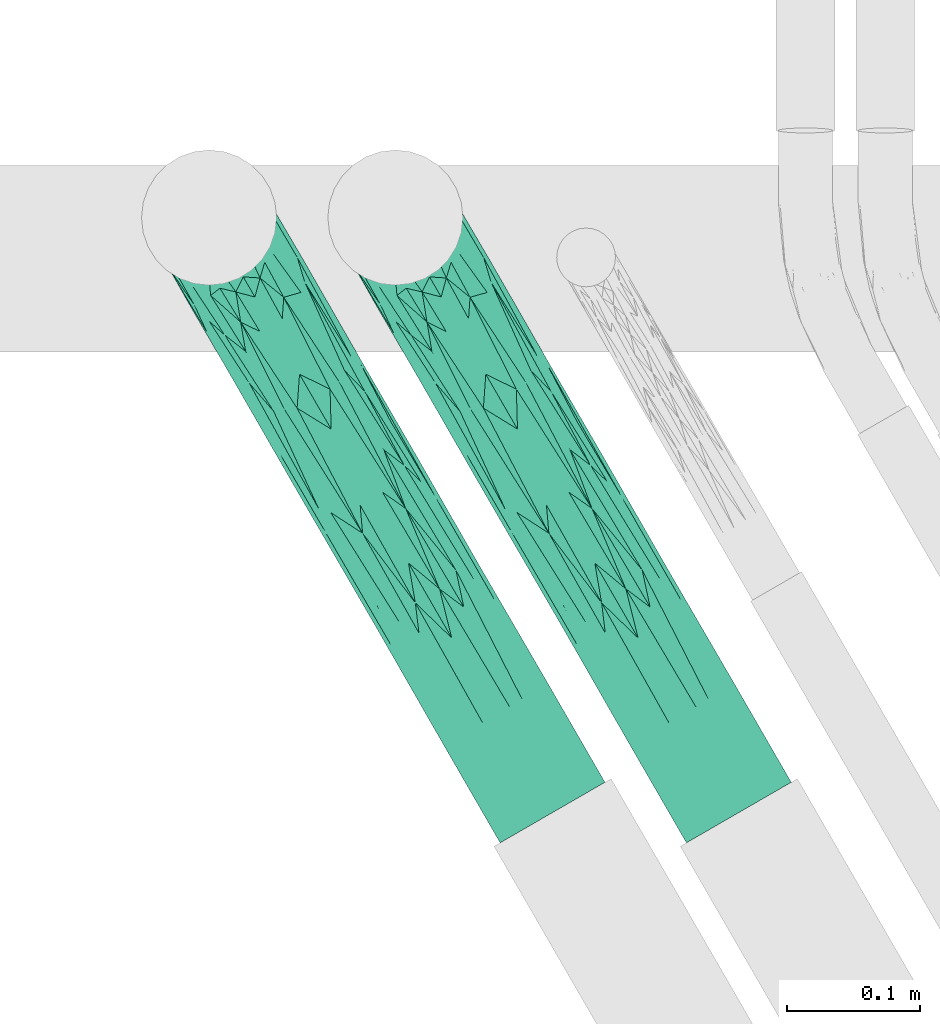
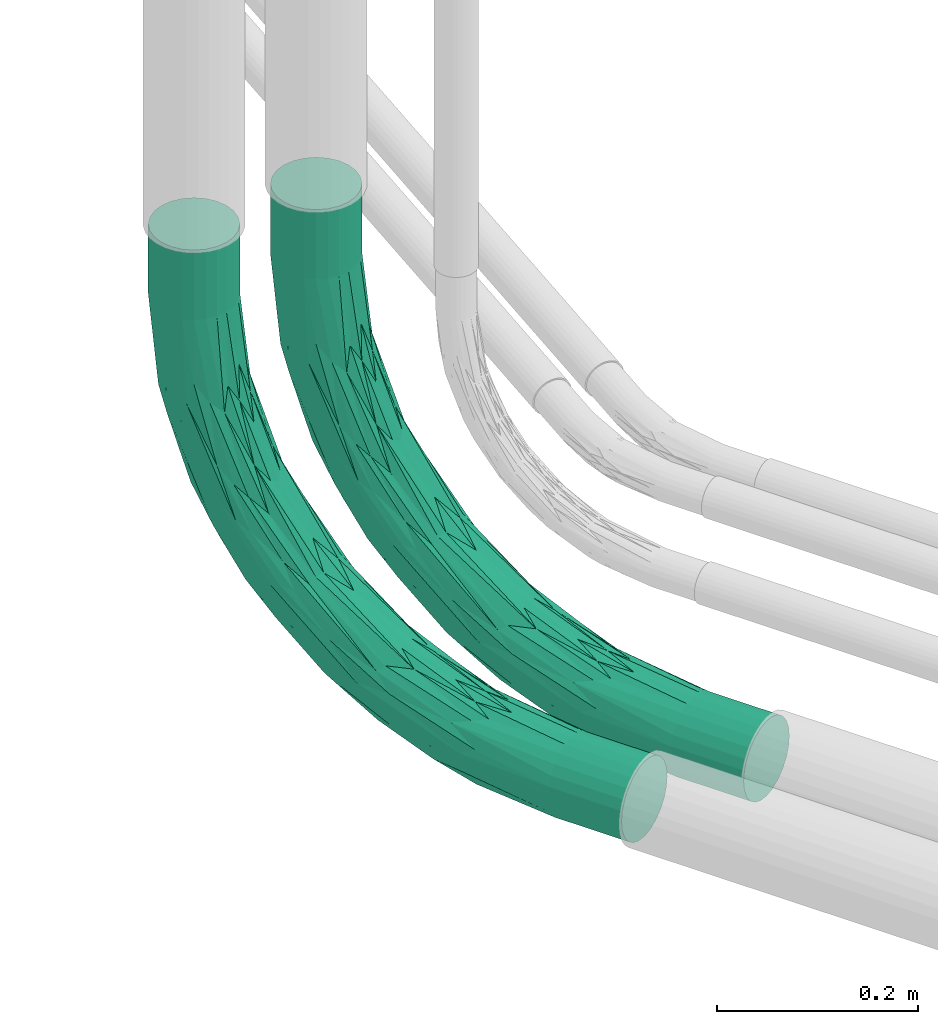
# One storey, part 15 of 18: 2 cable carrier fittings.
"""IFC4 building model written with IfcOpenShell, lengths in centimetres."""

from ifc_helpers import new_model, entity, si_unit, converted_unit, derived_unit, direction, frame, origin, place, context, subcontext, project, spatial, polygons, source, transform, mapped, material, type_object, type_shapes, element, save


model = new_model("IFC4")

# Units and contexts
model_context = context("Model", 3, precision=0.001, world=origin(), true_north=direction((6.123233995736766e-17, 1.0)))
body_context = subcontext(model_context, "Body", "Model", "MODEL_VIEW")
ifc_project = project(units=[si_unit("LENGTHUNIT", "METRE", prefix="CENTI"), si_unit("AREAUNIT", "SQUARE_METRE"), converted_unit("PLANEANGLEUNIT", "DEGREE", entity("IfcPlaneAngleMeasure", 0.017453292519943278), si_unit("PLANEANGLEUNIT", "RADIAN"), dimensions=[0, 0, 0, 0, 0, 0, 0]), si_unit("VOLUMEUNIT", "CUBIC_METRE"), derived_unit("THERMALTRANSMITTANCEUNIT", [(si_unit("MASSUNIT", "GRAM", prefix="KILO"), 1), (si_unit("THERMODYNAMICTEMPERATUREUNIT", "KELVIN"), -1), (si_unit("TIMEUNIT", "SECOND"), -3)])], contexts=[model_context])

# Site, building, storey
site_placement = place(None, frame((-0.003347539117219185, 0.0, 0.0)))
site = spatial("IfcSite", under=ifc_project, at=site_placement, Name="Default", CompositionType="ELEMENT")
building_placement = place(site_placement, origin())
building = spatial("IfcBuilding", under=site, at=building_placement, CompositionType="ELEMENT")
storey_placement = place(building_placement, frame((0.0, 0.0, -30.0)))
storey = spatial("IfcBuildingStorey", under=building, at=storey_placement, Name="Fondation B.O.", CompositionType="ELEMENT", Elevation=-30.0)

# Cable carrier fittings
ifc_material = material(Name="<Unnamed>")
cable_carrier_fitting_type = type_object("IfcCableCarrierFittingType", Name="Courbure de conduit en plastique rigide - Sans raccords:Raccord TPC HT", PredefinedType="NOTDEFINED", material=ifc_material)
shared_shape = source(origin(), body_context, "Body", "Tessellation", [
    polygons([(-51.62099999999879, -4.550000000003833, -2.0177218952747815e-13), (-51.620999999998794, -4.394962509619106, 1.1776266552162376), (-51.620999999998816, -3.940415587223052, 2.2749999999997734), (-51.62099999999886, -3.2173358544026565, 3.2173358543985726), (-51.62099999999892, -2.2750000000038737, 3.9404155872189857), (-51.62099999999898, -1.1776266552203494, 4.394962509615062), (-51.62099999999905, -3.882659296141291e-12, 4.549999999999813), (-51.620999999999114, 1.177626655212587, 4.3949625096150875), (-51.62099999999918, 2.2749999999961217, 3.9404155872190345), (-51.620999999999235, 3.2173358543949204, 3.217335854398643), (-51.62099999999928, 3.9404155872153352, 2.2749999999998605), (-51.620999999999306, 4.394962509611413, 1.1776266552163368), (-51.62099999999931, 4.549999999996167, -1.5766782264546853e-13), (-51.620999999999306, 4.394962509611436, -1.177626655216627), (-51.62099999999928, 3.940415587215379, -2.2750000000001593), (-51.620999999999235, 3.217335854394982, -3.217335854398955), (-51.62099999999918, 2.274999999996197, -3.9404155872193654), (-51.620999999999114, 1.177626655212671, -4.394962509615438), (-51.62099999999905, -3.799606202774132e-12, -4.550000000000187), (-51.62099999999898, -1.177626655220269, -4.394962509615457), (-51.62099999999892, -2.2750000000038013, -3.9404155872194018), (-51.62099999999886, -3.2173358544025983, -3.217335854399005), (-51.620999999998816, -3.94041558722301, -2.275000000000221), (-51.620999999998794, -4.394962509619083, -1.1776266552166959), (-43.18000000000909, -4.550000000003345, -2.0177218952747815e-13), (-43.18000000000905, -4.394962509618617, 1.1776266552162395), (-43.18000000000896, -3.9404155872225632, 2.2749999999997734), (-43.1800000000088, -3.2173358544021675, 3.2173358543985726), (-43.180000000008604, -2.2750000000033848, 3.9404155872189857), (-43.18000000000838, -1.1776266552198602, 4.394962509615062), (-43.18000000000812, -3.393677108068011e-12, 4.549999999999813), (-43.18000000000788, 1.1776266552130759, 4.3949625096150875), (-43.18000000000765, 2.274999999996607, 3.940415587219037), (-43.180000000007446, 3.2173358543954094, 3.217335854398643), (-43.1800000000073, 3.940415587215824, 2.2749999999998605), (-43.180000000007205, 4.3949625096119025, 1.1776266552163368), (-43.18000000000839, 4.549999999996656, -1.2937933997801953e-13), (-43.180000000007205, 4.394962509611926, -1.177626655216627), (-43.1800000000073, 3.940415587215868, -2.2750000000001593), (-43.180000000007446, 3.217335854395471, -3.217335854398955), (-43.18000000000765, 2.274999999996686, -3.9404155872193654), (-43.18000000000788, 1.1776266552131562, -4.394962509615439), (-43.18000000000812, -3.3065828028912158e-12, -4.550000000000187), (-43.18000000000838, -1.177626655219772, -4.394962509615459), (-43.180000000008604, -2.2750000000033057, -3.9404155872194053), (-43.1800000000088, -3.2173358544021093, -3.217335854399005), (-43.18000000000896, -3.9404155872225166, -2.275000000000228), (-43.18000000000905, -4.394962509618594, -1.1776266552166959), (-4.549999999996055, 43.17999999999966, -1.5766782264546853e-13), (-5.136876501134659, 36.47197089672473, -1.5766782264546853e-13), (-6.879674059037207, 29.96776186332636, -1.5766782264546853e-13), (-9.725438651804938, 23.86499999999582, -1.5766782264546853e-13), (-13.58770316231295, 18.349114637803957, -1.5766782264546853e-13), (-18.349114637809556, 13.58770316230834, -1.5766782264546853e-13), (-23.865000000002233, 9.725438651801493, -1.5766782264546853e-13), (-29.967761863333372, 6.879674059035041, -1.5766782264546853e-13), (-36.47197089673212, 5.1368765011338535, -1.5766782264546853e-13), (-35.71338298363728, -3.9623644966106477, -2.0177218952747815e-13), (-28.430618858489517, -2.2139275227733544, -2.0177218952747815e-13), (-21.511033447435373, 0.6522586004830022, -2.0177218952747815e-13), (-15.125009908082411, 4.565618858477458, -2.0177218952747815e-13), (-9.429793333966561, 9.429793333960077, -2.0177218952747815e-13), (-4.56561885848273, 15.125009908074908, -2.0177218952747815e-13), (-0.652258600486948, 21.51103344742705, -2.0177218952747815e-13), (2.2139275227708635, 28.43061885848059, -2.0177218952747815e-13), (3.9623644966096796, 35.713382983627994, -2.0177218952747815e-13), (4.550000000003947, 43.17999999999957, -2.0177218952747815e-13), (4.394962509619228, 43.179999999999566, 1.1776266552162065), (3.940415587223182, 43.17999999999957, 2.274999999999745), (3.217335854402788, 43.17999999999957, 3.217335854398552), (2.275000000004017, 43.17999999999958, 3.9404155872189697), (1.177626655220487, 43.17999999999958, 4.394962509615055), (4.020144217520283e-12, 43.17999999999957, 4.549999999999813), (-1.1776266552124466, 43.17999999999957, 4.3949625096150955), (-2.2749999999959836, 43.179999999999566, 3.940415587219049), (-3.2173358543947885, 43.179999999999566, 3.217335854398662), (-3.940415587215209, 43.17999999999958, 2.274999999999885), (-4.394962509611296, 43.17999999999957, 1.1776266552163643), (-15.02036436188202, 15.020364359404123, 3.072134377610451), (-13.077938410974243, 7.671630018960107, 3.056157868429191), (-26.30648554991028, 7.98520029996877, 1.8668578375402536), (-7.985200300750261, 26.306485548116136, 1.8668578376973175), (-14.581721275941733, 11.392017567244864, 4.530486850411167), (-2.7005822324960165, 18.736862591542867, 1.9585534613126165), (-25.502366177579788, -0.7447833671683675, 1.8236442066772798), (-4.072509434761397, 20.84036665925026, 4.153185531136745), (-15.701628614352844, 15.70162861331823, 1.4291838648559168), (-12.41459078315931, 7.036212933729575, 1.53137504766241), (-23.3273464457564, 2.768813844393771, 4.159433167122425), (-5.906865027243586, 24.847098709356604, 4.243277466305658), (-26.636265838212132, 5.0902296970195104, 4.239274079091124), (-32.813833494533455, 5.8392050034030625, 1.0506524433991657), (-5.839205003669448, 32.81383349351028, 1.0506524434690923), (0.8967112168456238, 25.231808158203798, 1.1164378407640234), (0.7514990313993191, 29.50971928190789, 3.5633854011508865), (-1.4506645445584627, 29.713148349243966, 4.500618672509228), (-25.157632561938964, -0.9215767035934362, 0.8908191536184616), (-30.585415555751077, -1.0669243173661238, 3.5671710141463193), (-30.771130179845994, 1.1302090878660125, 4.50150989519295), (-4.446205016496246, 31.475107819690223, 3.6502381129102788), (-32.208491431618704, 5.12089169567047, 2.819605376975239), (2.1655382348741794, 30.348450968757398, 2.265177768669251), (0.5759349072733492, 32.7839426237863, 4.181398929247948), (-1.7748042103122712, 32.98047666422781, 4.5181930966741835), (-6.292048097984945, 21.142857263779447, 4.5451166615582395), (-33.632130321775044, -3.371313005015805, 1.3651364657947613), (-10.361088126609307, 13.750845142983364, 4.459849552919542), (-32.945731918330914, -2.5114050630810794, 2.725261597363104), (-33.21167237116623, 1.7198873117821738, 4.518036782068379), (-4.782104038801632, 33.47921154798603, 2.8137434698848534), (-12.11545920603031, 10.098426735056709, 3.9824601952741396), (-33.55583600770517, 3.88755838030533, 3.642944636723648), (-23.4420461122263, 8.216172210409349, 3.3947214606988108), (-14.49587891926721, 13.772556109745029, 4.036461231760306), (-8.31201253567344, 23.759214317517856, 3.1655470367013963), (-22.634103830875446, 1.3309122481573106, 2.9773809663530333), (-23.217617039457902, 4.999638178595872, 4.54898853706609), (-33.777278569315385, -0.7948692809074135, 4.183587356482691), (-5.231461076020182, 16.921536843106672, 3.449059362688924), (-2.598204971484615, 34.57606622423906, 4.222034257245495), (-18.816842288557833, 4.280345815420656, 3.647993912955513), (-24.378272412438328, 9.314341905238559, 0.9711047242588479), (-34.91207018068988, 4.997982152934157, 1.945551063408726), (-9.314341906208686, 24.37827241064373, 0.9711047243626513), (-4.997982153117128, 34.912070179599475, 1.9455510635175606), (-3.7255548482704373, 16.522075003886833, 1.0114493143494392), (-16.695691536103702, 4.252141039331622, 2.3388230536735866), (-9.106611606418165, 10.686908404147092, 2.338823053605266), (-21.987659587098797, 4.5203370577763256, 4.458633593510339), (-35.635537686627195, 2.3936760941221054, 4.219770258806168), (-7.805873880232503, 23.08577914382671, 3.8036156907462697), (-1.1709756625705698, 22.70468628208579, 2.8419920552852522), (-21.669604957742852, 10.075263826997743, 2.6472320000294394), (-15.58322736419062, 15.262627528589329, 2.301635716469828), (-20.807317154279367, 7.395248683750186, 4.443848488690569), (-14.848857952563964, 12.32189300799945, 4.363669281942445), (-10.074938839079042, 18.017757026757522, 4.260246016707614), (-19.934998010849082, 8.950763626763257, 4.177076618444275), (-24.79087940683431, 6.749951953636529, 3.882911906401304), (3.5596861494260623, 34.011112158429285, 0.9462245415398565), (2.5243445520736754, 34.09466590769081, 3.002600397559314), (-4.872341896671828, 21.316158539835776, 4.454386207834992), (-17.147761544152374, 12.28493050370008, 3.6021751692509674), (-4.3949625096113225, 43.17999999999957, -1.1776266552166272), (-3.9404155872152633, 43.17999999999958, -2.2750000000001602), (-3.21733585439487, 43.179999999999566, -3.217335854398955), (-2.2749999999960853, 43.179999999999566, -3.9404155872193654), (-1.177626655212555, 43.17999999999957, -4.394962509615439), (3.911857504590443e-12, 43.17999999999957, -4.550000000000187), (1.1776266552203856, 43.17999999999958, -4.394962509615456), (2.275000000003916, 43.17999999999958, -3.940415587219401), (3.2173358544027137, 43.17999999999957, -3.217335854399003), (3.9404155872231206, 43.17999999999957, -2.275000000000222), (4.3949625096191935, 43.17999999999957, -1.1776266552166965), (-15.02036470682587, 15.020364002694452, -3.072134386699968), (-13.077938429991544, 7.671629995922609, -3.056157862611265), (-26.30648564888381, 7.98520023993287, -1.8668578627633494), (-7.9852001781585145, 26.30648577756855, -1.8668578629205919), (-11.392017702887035, 14.581721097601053, -4.5304868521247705), (-2.700582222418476, 18.73686260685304, -1.958553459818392), (-25.502366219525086, -0.7447833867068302, -1.823644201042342), (-4.0725094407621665, 20.8403666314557, -4.153185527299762), (-15.701628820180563, 15.701628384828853, -1.4291839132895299), (-12.414590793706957, 7.036212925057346, -1.5313750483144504), (-23.327346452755, 2.7688138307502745, -4.159433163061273), (-24.847098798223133, 5.906864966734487, -4.243277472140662), (-5.090229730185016, 26.636265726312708, -4.239274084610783), (-32.813833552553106, 5.839204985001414, -1.050652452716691), (-5.839204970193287, 32.81383361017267, -1.0506524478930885), (0.8967112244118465, 25.231808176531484, -1.1164378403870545), (0.751499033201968, 29.509719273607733, -3.5633853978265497), (-1.4506645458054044, 29.713148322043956, -4.500618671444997), (-25.157632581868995, -0.9215767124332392, -0.8908191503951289), (-30.58541556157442, -1.0669243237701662, -3.5671710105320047), (-30.771130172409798, 1.13020908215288, -4.501509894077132), (-31.47510786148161, 4.446204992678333, -3.6502381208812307), (-5.120891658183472, 32.2084915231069, -2.819605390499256), (2.1655382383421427, 30.348450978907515, -2.2651777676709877), (0.5759349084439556, 32.783942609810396, -4.181398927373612), (-1.7748042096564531, 32.98047663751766, -4.51819309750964), (-33.63213033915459, -3.371313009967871, -1.3651364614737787), (-32.94573191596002, -2.5114050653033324, -2.7252615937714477), (-33.21167235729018, 1.7198873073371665, -4.518036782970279), (-21.223091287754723, 6.155412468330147, -4.548015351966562), (-12.950291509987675, 10.818543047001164, -4.413957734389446), (-33.479211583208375, 4.782104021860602, -2.81374347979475), (-3.8875583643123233, 33.5558360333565, -3.64294464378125), (-8.2161723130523, 23.442045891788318, -3.394721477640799), (-13.772556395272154, 14.495878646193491, -4.036461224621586), (-23.759214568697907, 8.312012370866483, -3.1655470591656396), (-22.634103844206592, 1.3309122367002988, -2.9773809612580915), (-33.77727857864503, -0.7948692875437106, -4.183587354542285), (-18.82107841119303, 4.280834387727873, -3.6499770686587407), (-9.61754694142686, 12.190658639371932, -3.800815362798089), (-4.324134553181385, 17.576515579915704, -3.075733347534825), (-34.57606628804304, 2.5982049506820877, -4.222034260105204), (-5.114986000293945, 23.1231667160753, -4.547387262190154), (-5.329800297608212, 20.654786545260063, -4.466887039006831), (-24.378272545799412, 9.314341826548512, -0.9711047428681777), (-34.91207023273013, 4.9979821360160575, -1.9455510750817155), (-9.31434176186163, 24.378272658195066, -0.9711047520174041), (-4.9979821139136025, 34.91207036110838, -1.9455510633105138), (-3.725554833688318, 16.52207502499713, -1.0114493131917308), (-16.69569155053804, 4.252141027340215, -2.338823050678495), (-9.10661165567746, 10.686908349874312, -2.338823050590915), (-15.482412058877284, 7.480164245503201, -4.084687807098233), (-2.393676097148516, 35.63553763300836, -4.219770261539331), (-23.08577919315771, 7.805873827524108, -3.803615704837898), (-10.07526395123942, 21.66960474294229, -2.6472320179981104), (-15.26262769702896, 15.583227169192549, -2.3016357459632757), (3.5596861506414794, 34.01111216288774, -0.9462245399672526), (2.524344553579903, 34.09466590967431, -3.0026003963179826), (-0.034279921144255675, 25.30797244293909, -2.882122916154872), (-17.70253122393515, 9.614633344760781, -4.429424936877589), (-12.005579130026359, 15.204891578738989, -4.362167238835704), (-8.912565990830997, 20.060366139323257, -4.1601744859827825), (-6.576453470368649, 25.16436526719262, -3.8759619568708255), (-21.73405240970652, 4.682179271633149, -4.46245534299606), (-12.284930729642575, 17.147761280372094, -3.6021751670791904), (-4.151047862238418, 19.136883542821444, -3.6912669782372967), (4.55000000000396, 51.62099999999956, -2.2915449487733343e-13), (4.39496250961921, 51.62099999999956, -1.1776266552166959), (3.940415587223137, 51.62099999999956, -2.275000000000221), (3.217335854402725, 51.62099999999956, -3.217335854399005), (2.2750000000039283, 51.62099999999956, -3.9404155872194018), (1.1776266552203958, 51.62099999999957, -4.394962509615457), (3.926504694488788e-12, 51.62099999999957, -4.550000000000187), (-1.1776266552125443, 51.62099999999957, -4.394962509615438), (-2.2749999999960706, 51.620999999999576, -3.9404155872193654), (-3.217335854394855, 51.620999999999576, -3.217335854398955), (-3.940415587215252, 51.620999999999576, -2.2750000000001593), (-4.394962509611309, 51.620999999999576, -1.177626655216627), (-4.54999999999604, 51.620999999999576, -1.3342055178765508e-13), (-4.394962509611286, 51.620999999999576, 1.1776266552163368), (-3.9404155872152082, 51.620999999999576, 2.2749999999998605), (-3.2173358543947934, 51.620999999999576, 3.217335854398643), (-2.2749999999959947, 51.620999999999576, 3.9404155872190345), (-1.17762665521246, 51.62099999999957, 4.3949625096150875), (4.009557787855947e-12, 51.62099999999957, 4.549999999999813), (1.1776266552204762, 51.62099999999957, 4.394962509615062), (2.2750000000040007, 51.62099999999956, 3.9404155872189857), (3.2173358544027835, 51.62099999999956, 3.2173358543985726), (3.94041558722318, 51.62099999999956, 2.2749999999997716), (4.394962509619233, 51.62099999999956, 1.1776266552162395)], [[[17, 18, 19, 20, 21, 22, 23, 24, 1, 2, 3, 4, 5, 6, 7, 8, 9, 10, 11, 12, 13, 14, 15, 16]], [[2, 1, 25, 26]], [[27, 3, 2, 26]], [[5, 4, 28, 29]], [[27, 28, 4, 3]], [[6, 5, 29, 30]], [[30, 31, 7, 6]], [[9, 8, 32, 33]], [[34, 10, 9, 33]], [[12, 11, 35, 36]], [[34, 35, 11, 10]], [[13, 12, 36, 37]], [[32, 8, 7, 31]], [[14, 13, 37, 38]], [[39, 15, 14, 38]], [[17, 16, 40, 41]], [[39, 40, 16, 15]], [[18, 17, 41, 42]], [[42, 43, 19, 18]], [[21, 20, 44, 45]], [[46, 22, 21, 45]], [[24, 23, 47, 48]], [[46, 47, 23, 22]], [[1, 24, 48, 25]], [[44, 20, 19, 43]], [[118, 99, 30]], [[58, 59, 106]], [[106, 27, 26]], [[89, 118, 98]], [[141, 70, 95]], [[94, 64, 65]], [[25, 58, 26]], [[73, 104, 96]], [[28, 98, 29]], [[98, 116, 121]], [[60, 97, 59]], [[106, 59, 97]], [[135, 109, 117]], [[62, 88, 61]], [[30, 29, 118]], [[99, 129, 117]], [[76, 77, 110]], [[97, 61, 88]], [[96, 72, 73]], [[99, 109, 31]], [[56, 122, 55]], [[123, 101, 81]], [[124, 82, 93]], [[81, 133, 134]], [[32, 31, 109]], [[142, 107, 86]], [[56, 57, 92]], [[56, 92, 122]], [[101, 35, 34]], [[92, 123, 81]], [[124, 53, 87]], [[57, 37, 36]], [[122, 92, 81]], [[115, 100, 110]], [[64, 126, 63]], [[127, 128, 80]], [[33, 32, 130]], [[126, 62, 63]], [[88, 85, 97]], [[116, 98, 108]], [[64, 94, 126]], [[106, 97, 85]], [[126, 94, 84]], [[96, 104, 105]], [[104, 73, 74]], [[116, 127, 80]], [[97, 60, 61]], [[140, 66, 68]], [[140, 102, 94]], [[103, 71, 72]], [[119, 86, 111]], [[140, 69, 102]], [[86, 95, 103]], [[95, 71, 103]], [[78, 50, 93]], [[125, 93, 82]], [[140, 65, 66]], [[68, 66, 67]], [[102, 84, 94]], [[132, 84, 102]], [[76, 110, 100]], [[53, 54, 87]], [[87, 134, 82]], [[51, 52, 124]], [[49, 50, 78]], [[71, 95, 70]], [[124, 93, 51]], [[34, 112, 101]], [[120, 100, 90]], [[54, 55, 122]], [[57, 36, 92]], [[101, 112, 113]], [[51, 93, 50]], [[78, 93, 125]], [[79, 113, 143]], [[100, 75, 76]], [[136, 137, 114]], [[105, 107, 142]], [[74, 75, 120]], [[30, 99, 31]], [[123, 36, 35]], [[108, 98, 28]], [[28, 27, 108]], [[107, 111, 86]], [[131, 90, 100]], [[34, 33, 112]], [[101, 113, 133]], [[141, 69, 70]], [[132, 95, 119]], [[72, 96, 103]], [[86, 103, 96]], [[120, 104, 74]], [[137, 105, 90]], [[90, 105, 104]], [[105, 83, 107]], [[106, 85, 108]], [[58, 106, 26]], [[83, 117, 129]], [[107, 129, 111]], [[106, 108, 27]], [[88, 127, 85]], [[117, 109, 99]], [[130, 109, 91]], [[125, 110, 77]], [[82, 134, 115]], [[80, 121, 116]], [[119, 111, 80]], [[130, 112, 33]], [[113, 79, 133]], [[91, 139, 112]], [[100, 115, 131]], [[91, 138, 139]], [[135, 136, 138]], [[82, 115, 110]], [[79, 143, 131]], [[85, 116, 108]], [[80, 111, 121]], [[99, 89, 129]], [[135, 117, 83]], [[98, 118, 29]], [[99, 118, 89]], [[119, 80, 128]], [[95, 86, 119]], [[100, 120, 75]], [[104, 120, 90]], [[111, 89, 121]], [[98, 121, 89]], [[81, 87, 122]], [[54, 122, 87]], [[36, 123, 92]], [[101, 123, 35]], [[53, 124, 52]], [[87, 82, 124]], [[110, 125, 82]], [[78, 125, 77]], [[84, 88, 126]], [[62, 126, 88]], [[85, 127, 116]], [[128, 127, 88]], [[88, 84, 128]], [[128, 84, 132]], [[111, 129, 89]], [[83, 129, 107]], [[109, 130, 32]], [[112, 130, 91]], [[79, 131, 115]], [[137, 131, 114]], [[132, 102, 141]], [[128, 132, 119]], [[134, 133, 79]], [[101, 133, 81]], [[134, 79, 115]], [[81, 134, 87]], [[136, 135, 83]], [[109, 135, 91]], [[83, 105, 137]], [[138, 136, 114]], [[137, 136, 83]], [[131, 137, 90]], [[143, 139, 138]], [[135, 138, 91]], [[143, 138, 114]], [[112, 139, 113]], [[140, 68, 69]], [[65, 140, 94]], [[132, 141, 95]], [[69, 141, 102]], [[86, 96, 142]], [[105, 142, 96]], [[139, 143, 113]], [[131, 143, 114]], [[56, 168, 57]], [[178, 153, 211]], [[184, 218, 175]], [[155, 188, 219]], [[150, 172, 149]], [[196, 176, 166]], [[168, 200, 38]], [[203, 160, 170]], [[55, 199, 56]], [[176, 41, 40]], [[54, 53, 163]], [[195, 160, 205]], [[177, 145, 146]], [[168, 56, 199]], [[161, 191, 204]], [[57, 38, 37]], [[197, 167, 180]], [[42, 41, 196]], [[46, 182, 47]], [[191, 161, 182]], [[182, 181, 47]], [[40, 39, 186]], [[175, 183, 184]], [[25, 48, 58]], [[173, 164, 61]], [[183, 43, 42]], [[165, 192, 175]], [[164, 173, 161]], [[45, 174, 46]], [[59, 173, 60]], [[157, 163, 210]], [[181, 58, 48]], [[173, 181, 161]], [[182, 46, 174]], [[175, 44, 43]], [[45, 44, 192]], [[156, 191, 193]], [[153, 154, 211]], [[199, 157, 168]], [[59, 58, 181]], [[158, 201, 169]], [[185, 162, 194]], [[45, 192, 174]], [[199, 54, 163]], [[169, 51, 50]], [[169, 201, 51]], [[144, 50, 49]], [[150, 151, 179]], [[205, 164, 204]], [[158, 209, 210]], [[172, 180, 149]], [[158, 202, 177]], [[147, 148, 207]], [[212, 153, 178]], [[66, 211, 154]], [[148, 149, 180]], [[175, 218, 165]], [[169, 202, 158]], [[195, 156, 194]], [[179, 172, 150]], [[146, 187, 177]], [[173, 61, 60]], [[43, 183, 175]], [[64, 63, 203]], [[170, 211, 65]], [[190, 176, 186]], [[164, 203, 62]], [[201, 53, 52]], [[62, 61, 164]], [[202, 144, 145]], [[50, 144, 169]], [[64, 203, 170]], [[67, 66, 154]], [[200, 168, 157]], [[177, 187, 188]], [[170, 65, 64]], [[38, 57, 168]], [[162, 172, 179]], [[152, 171, 151]], [[201, 52, 51]], [[170, 160, 178]], [[176, 40, 186]], [[172, 198, 197]], [[214, 189, 215]], [[208, 166, 176]], [[146, 147, 187]], [[177, 188, 209]], [[213, 160, 195]], [[152, 212, 171]], [[151, 171, 179]], [[162, 179, 171]], [[197, 180, 172]], [[207, 180, 167]], [[181, 173, 59]], [[47, 181, 48]], [[191, 182, 174]], [[181, 182, 161]], [[196, 183, 42]], [[184, 214, 159]], [[166, 184, 183]], [[184, 159, 185]], [[159, 197, 198]], [[193, 194, 156]], [[200, 186, 39]], [[157, 210, 190]], [[207, 187, 147]], [[188, 155, 209]], [[167, 216, 217]], [[176, 190, 208]], [[219, 216, 189]], [[214, 215, 159]], [[157, 190, 186]], [[155, 219, 208]], [[193, 174, 165]], [[191, 156, 204]], [[175, 192, 44]], [[174, 192, 165]], [[174, 193, 191]], [[193, 206, 194]], [[193, 165, 206]], [[171, 213, 220]], [[162, 220, 194]], [[171, 212, 213]], [[176, 196, 41]], [[183, 196, 166]], [[172, 162, 198]], [[197, 159, 215]], [[162, 185, 198]], [[159, 198, 185]], [[54, 199, 55]], [[163, 157, 199]], [[186, 200, 157]], [[38, 200, 39]], [[158, 163, 201]], [[53, 201, 163]], [[144, 202, 169]], [[177, 202, 145]], [[62, 203, 63]], [[164, 160, 203]], [[205, 204, 156]], [[161, 204, 164]], [[195, 205, 156]], [[160, 164, 205]], [[218, 206, 165]], [[185, 194, 206]], [[180, 207, 148]], [[187, 207, 167]], [[155, 208, 190]], [[189, 166, 208]], [[210, 209, 155]], [[177, 209, 158]], [[210, 155, 190]], [[158, 210, 163]], [[65, 211, 66]], [[178, 211, 170]], [[153, 212, 152]], [[213, 212, 178]], [[160, 213, 178]], [[213, 195, 220]], [[184, 166, 214]], [[189, 214, 166]], [[189, 216, 215]], [[197, 215, 167]], [[219, 217, 216]], [[167, 215, 216]], [[188, 187, 217]], [[187, 167, 217]], [[184, 185, 218]], [[206, 218, 185]], [[217, 219, 188]], [[208, 219, 189]], [[171, 220, 162]], [[195, 194, 220]], [[227, 228, 229, 230, 231, 232, 233, 234, 235, 236, 237, 238, 239, 240, 241, 242, 243, 244, 221, 222, 223, 224, 225, 226]], [[68, 67, 221, 244]], [[243, 69, 68, 244]], [[71, 70, 242, 241]], [[243, 242, 70, 69]], [[72, 71, 241, 240]], [[240, 239, 73, 72]], [[75, 74, 238, 237]], [[236, 76, 75, 237]], [[78, 77, 235, 234]], [[236, 235, 77, 76]], [[49, 78, 234, 233]], [[238, 74, 73, 239]], [[144, 49, 233, 232]], [[231, 145, 144, 232]], [[147, 146, 230, 229]], [[231, 230, 146, 145]], [[148, 147, 229, 228]], [[228, 227, 149, 148]], [[151, 150, 226, 225]], [[224, 152, 151, 225]], [[154, 153, 223, 222]], [[224, 223, 153, 152]], [[67, 154, 222, 221]], [[226, 150, 149, 227]]], closed=True),
])
type_shapes(cable_carrier_fitting_type, [shared_shape])
for number, where, z_axis, x_axis in (
    (1, (-5984.915642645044, -1887.7927125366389, -21.0), (-0.8660254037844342, -0.500000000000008, 0.0), (0.0, 0.0, -1.0)),
    (2, (-5998.915642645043, -1887.7927125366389, -21.0), (-0.8660254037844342, -0.500000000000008, 0.0), (0.0, 0.0, -1.0)),
):
    element("IfcCableCarrierFitting", number, at=place(storey_placement, frame(where, z_axis=z_axis, x_axis=x_axis)), inside=storey, type_object=cable_carrier_fitting_type, material=ifc_material, Name="Courbure de conduit en plastique rigide - Sans raccords:Raccord TPC HT", ObjectType="Courbure de conduit en plastique rigide - Sans raccords:Raccord TPC HT", PredefinedType="NOTDEFINED", context=body_context, shape_type="MappedRepresentation", body=[
        mapped(shared_shape, transform((0.0, 0.0, 0.0), scale=1.0)),
    ])

save(model, "model.ifc")
